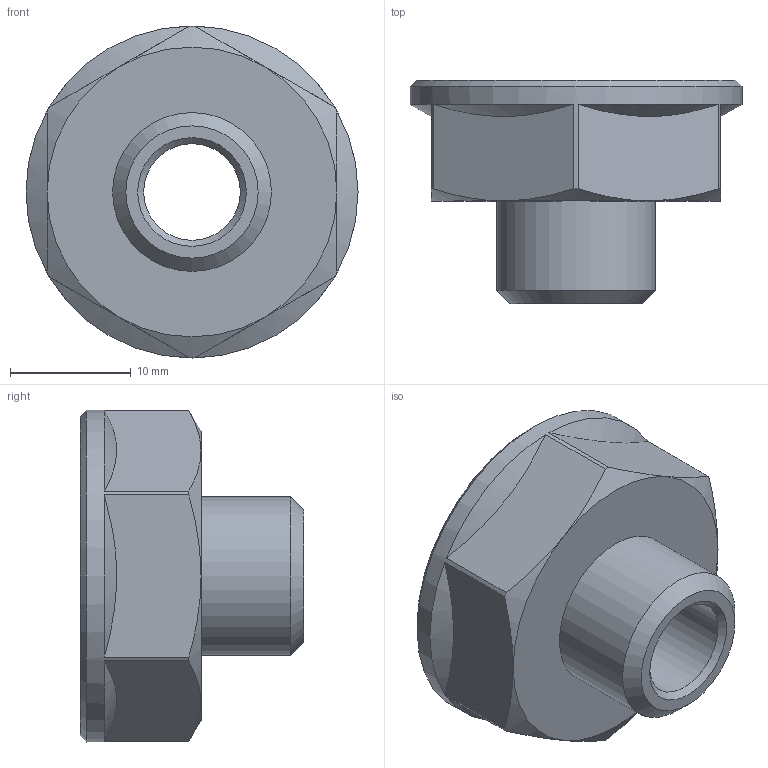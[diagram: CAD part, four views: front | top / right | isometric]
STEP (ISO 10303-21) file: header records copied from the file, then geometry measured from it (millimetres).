
FILE_DESCRIPTION(('STEP AP203'), '1');
FILE_NAME('ﾂﾐ.753138.005 - VTr.592.N.0402 ﾏ褞襄. G1-2xG1-4', '2024-07-08T08:48:50', ('Boss'), (''), 'C3D Converter', 'C3D Toolkit', '');
FILE_SCHEMA(('CONFIG_CONTROL_DESIGN'));
Length unit declared in the file: millimetre
Products named in the file (1): ВР.753138.005
Bounding box: 27.5 x 18.5 x 27.5 mm (x, y, z)
Volume: 3437 mm3; surface area: 2849.4 mm2
Topology: 1 solids, 1 shells, 31 faces, 70 edges, 43 vertices
Faces by surface type: cone 16, plane 10, cylinder 4, torus 1
Full cylindrical faces by diameter (mm): 8 x1, 13.157 x1, 18.632 x1, 27.5 x1
Entity records: 1238 total; most frequent: CARTESIAN_POINT 648, DIRECTION 118, ORIENTED_EDGE 102, AXIS2_PLACEMENT_3D 53, EDGE_CURVE 51, EDGE_LOOP 39, VERTEX_POINT 38, ADVANCED_FACE 26
